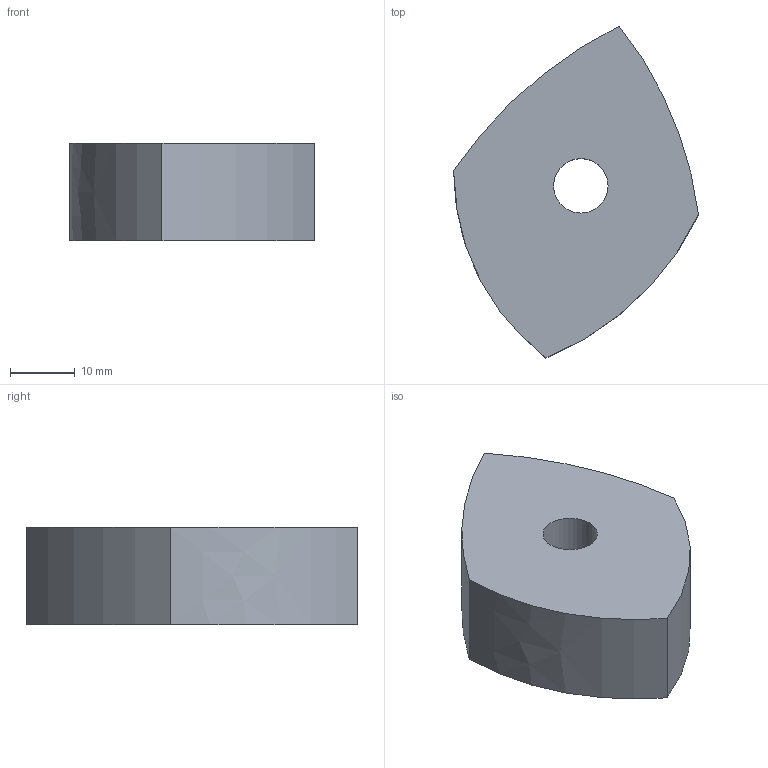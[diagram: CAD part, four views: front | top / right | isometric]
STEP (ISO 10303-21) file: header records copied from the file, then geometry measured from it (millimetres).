
FILE_DESCRIPTION(('Mechanical CAD reference from nasji.com'),'2;1');
FILE_NAME('NASJI.step','',(''),(''),'','NASJI distribution','');
FILE_SCHEMA(('AUTOMOTIVE_DESIGN { 1 0 10303 214 1 1 1 1 }'));
Length unit declared in the file: millimetre
Products named in the file (1): Open CASCADE STEP translator 7.8 39
Bounding box: 37.8 x 51.2 x 15 mm (x, y, z)
Volume: 17911.6 mm3; surface area: 4774.7 mm2
Topology: 1 solids, 1 shells, 7 faces, 15 edges, 10 vertices
Faces by surface type: cylinder 4, plane 2, extrusion 1
Full cylindrical faces by diameter (mm): 8.4 x1
Entity records: 414 total; most frequent: CARTESIAN_POINT 85, DIRECTION 62, ORIENTED_EDGE 30, PCURVE 30, DEFINITIONAL_REPRESENTATION 30, VECTOR 26, LINE 25, AXIS2_PLACEMENT_3D 15
